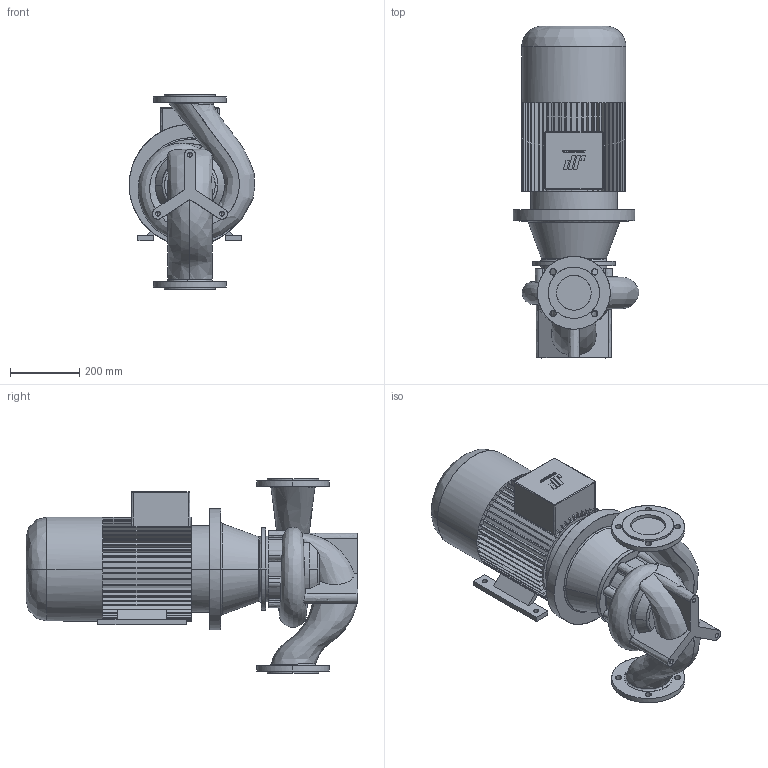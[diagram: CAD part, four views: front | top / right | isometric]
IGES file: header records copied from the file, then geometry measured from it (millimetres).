
Start section: CombiLine
Global section: file name: CLB_100-160_IEC160M.igs; native system:  By UGS Corp.; preprocessor: XPlus GENERIC/IGES 3.0; author: Stageplaats; organization: Johnson Pump Water B.V.; date: 20070716.085044; units: millimetre
Bounding box: 362.13 x 957 x 560 mm (x, y, z)
Surface area: 1900765.8 mm2 (no closed solid volume)
Topology: 0 solids, 0 shells, 581 faces, 3533 edges, 3527 vertices
Faces by surface type: bspline 581
